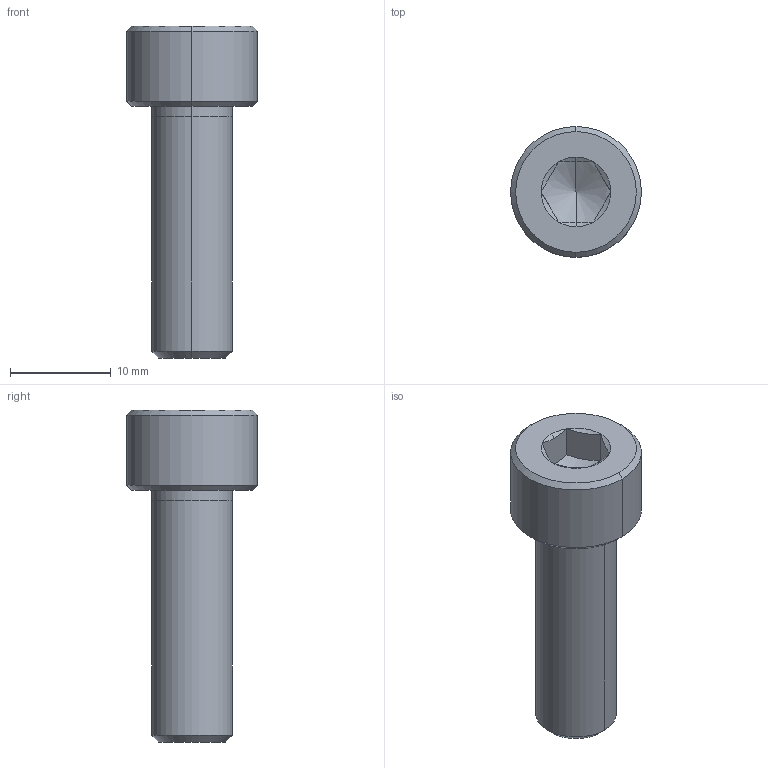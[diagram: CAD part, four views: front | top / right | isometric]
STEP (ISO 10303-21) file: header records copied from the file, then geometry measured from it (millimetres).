
FILE_DESCRIPTION(/* description */ ('VariCAD 2010-3.03 AP-214'),/* implementation_level */ '2;1');
FILE_NAME(/* name */ '0353-97-62',/* time_stamp */ '2011-06-29T13:45:23-06:00',/* author */ (''),/* organization */ (''),/* preprocessor_version */ 'ST-DEVELOPER v12',/* originating_system */ 'VariCAD 2010-3.03; kernel version (20100102)',/* authorisation */ '');
FILE_SCHEMA (('AUTOMOTIVE_DESIGN'));
Length unit declared in the file: millimetre
Products named in the file (1): Part
Bounding box: 13 x 13 x 33 mm (x, y, z)
Volume: 2181.1 mm3; surface area: 2289.7 mm2
Topology: 2 solids, 2 shells, 37 faces, 84 edges, 51 vertices
Faces by surface type: cone 16, plane 11, cylinder 10
Entity records: 1370 total; most frequent: CARTESIAN_POINT 253, DIRECTION 178, ORIENTED_EDGE 164, EDGE_CURVE 82, AXIS2_PLACEMENT_3D 72, VERTEX_POINT 51, EDGE_LOOP 41, PRESENTATION_STYLE_ASSIGNMENT 39
